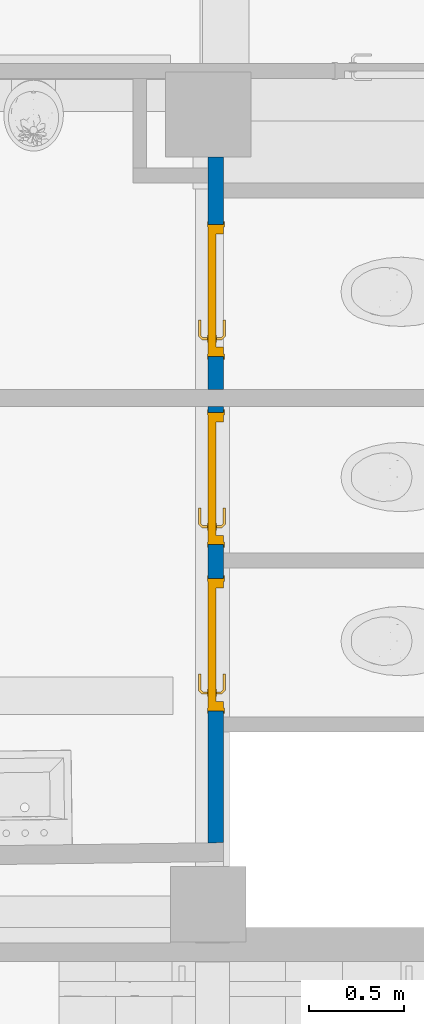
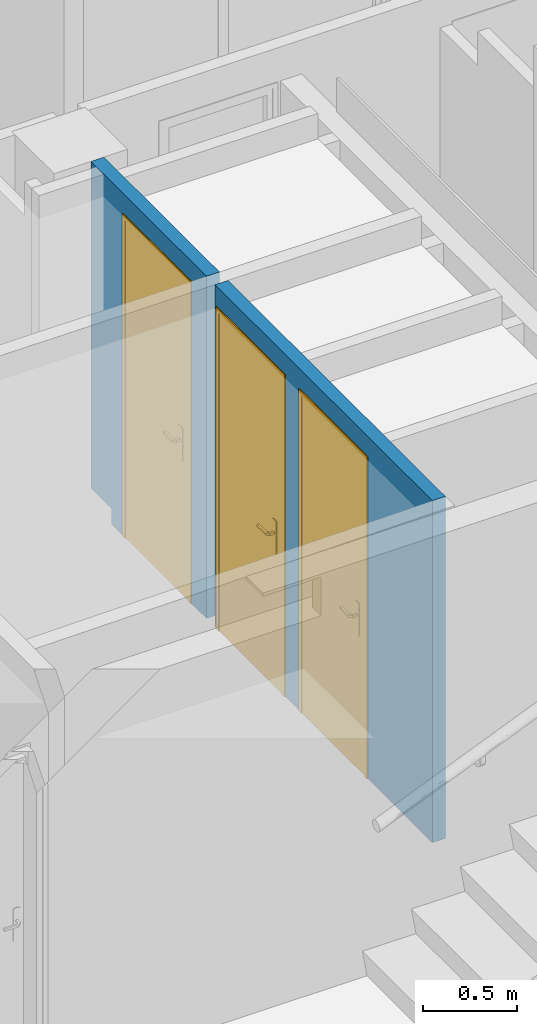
# One storey, part 13 of 32: 3 doors, 1 wall, 3 openings.
"""IFC4 building model written with IfcOpenShell, lengths in metres."""

from ifc_helpers import new_model, entity, si_unit, converted_unit, derived_unit, direction, frame, origin, place, context, subcontext, project, spatial, indexed_curve, outline, extrude, polygons, source, transform, mapped, material, material_list, layer, layer_set, constituent, constituent_set, type_object, type_shapes, element, fill, save


model = new_model("IFC4")

# Units and contexts
model_context = context("Model", 3, precision=1e-05, world=origin(), true_north=direction((6.12303176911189e-17, 1.0)))
body_context = subcontext(model_context, "Body", "Model", "MODEL_VIEW")
ifc_project = project(units=[si_unit("LENGTHUNIT", "METRE"), si_unit("AREAUNIT", "SQUARE_METRE"), si_unit("VOLUMEUNIT", "CUBIC_METRE"), converted_unit("PLANEANGLEUNIT", "DEGREE", entity("IfcRatioMeasure", 0.0174532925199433), si_unit("PLANEANGLEUNIT", "RADIAN"), dimensions=[0, 0, 0, 0, 0, 0, 0]), si_unit("MASSUNIT", "GRAM", prefix="KILO"), derived_unit("MASSDENSITYUNIT", [(si_unit("MASSUNIT", "GRAM", prefix="KILO"), 1), (si_unit("LENGTHUNIT", "METRE"), -3)]), derived_unit("MOMENTOFINERTIAUNIT", [(si_unit("LENGTHUNIT", "METRE"), 4)]), si_unit("TIMEUNIT", "SECOND"), si_unit("FREQUENCYUNIT", "HERTZ"), si_unit("THERMODYNAMICTEMPERATUREUNIT", "DEGREE_CELSIUS"), derived_unit("THERMALTRANSMITTANCEUNIT", [(si_unit("MASSUNIT", "GRAM", prefix="KILO"), 1), (si_unit("THERMODYNAMICTEMPERATUREUNIT", "KELVIN"), -1), (si_unit("TIMEUNIT", "SECOND"), -3)]), derived_unit("VOLUMETRICFLOWRATEUNIT", [(si_unit("LENGTHUNIT", "METRE"), 3), (si_unit("TIMEUNIT", "SECOND"), -1)]), si_unit("ELECTRICCURRENTUNIT", "AMPERE"), si_unit("ELECTRICVOLTAGEUNIT", "VOLT"), si_unit("POWERUNIT", "WATT"), si_unit("FORCEUNIT", "NEWTON", prefix="KILO"), si_unit("ILLUMINANCEUNIT", "LUX"), si_unit("LUMINOUSFLUXUNIT", "LUMEN"), si_unit("LUMINOUSINTENSITYUNIT", "CANDELA"), derived_unit("USERDEFINED", [(si_unit("MASSUNIT", "GRAM", prefix="KILO"), -1), (si_unit("LENGTHUNIT", "METRE"), -2), (si_unit("TIMEUNIT", "SECOND"), 3), (si_unit("LUMINOUSFLUXUNIT", "LUMEN"), 1)]), derived_unit("LINEARVELOCITYUNIT", [(si_unit("LENGTHUNIT", "METRE"), 1), (si_unit("TIMEUNIT", "SECOND"), -1)]), si_unit("PRESSUREUNIT", "PASCAL"), derived_unit("USERDEFINED", [(si_unit("LENGTHUNIT", "METRE"), -2), (si_unit("MASSUNIT", "GRAM", prefix="KILO"), 1), (si_unit("TIMEUNIT", "SECOND"), -2)]), derived_unit("LINEARFORCEUNIT", [(si_unit("MASSUNIT", "GRAM", prefix="KILO"), 1), (si_unit("LENGTHUNIT", "METRE"), 1), (si_unit("TIMEUNIT", "SECOND"), -2), (si_unit("LENGTHUNIT", "METRE"), -1)]), derived_unit("PLANARFORCEUNIT", [(si_unit("MASSUNIT", "GRAM", prefix="KILO"), 1), (si_unit("LENGTHUNIT", "METRE"), 1), (si_unit("TIMEUNIT", "SECOND"), -2), (si_unit("LENGTHUNIT", "METRE"), -2)])], contexts=[model_context])

# Site, building, storey
site_placement = place(None, origin())
site = spatial("IfcSite", under=ifc_project, at=site_placement, Name="Default", CompositionType="ELEMENT")
building_placement = place(site_placement, origin())
building = spatial("IfcBuilding", under=site, at=building_placement, Name="HOTEL CONSULAIRE BOULOGNE SUR MER", CompositionType="ELEMENT")
storey_placement = place(building_placement, frame((0.0, 0.0, -2.70343668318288)))
storey = spatial("IfcBuildingStorey", under=building, at=storey_placement, Name="SS1", CompositionType="ELEMENT", Elevation=-2.70343668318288)

# Wall, openings, doors
ifc_material_1 = material(Name="Mur par défaut", Category="Divers")
ifc_layer = layer(ifc_material_1, 0.08, Name="Mur par défaut", Category="Divers")
ifc_layer_set = layer_set([ifc_layer], Name="Mur de base:Générique - Int. 80")
wall_type = type_object("IfcWallType", Name="Mur de base:Générique - Int. 80", PredefinedType="NOTDEFINED", material=ifc_layer_set)
wall_placement = place(storey_placement, frame((-1.18882322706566, -19.4682589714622, 0.215), z_axis=(0.0, 0.0, 1.0), x_axis=(0.0, 1.0, 0.0)))
wall = element("IfcWall", 1, at=wall_placement, inside=storey, type_object=wall_type, material=ifc_layer_set, Name="Mur de base:Générique - Int. 80", ObjectType="Mur de base:Générique - Int. 80", PredefinedType="NOTDEFINED", context=body_context, shape_type="Tessellation", body=[
    polygons([(0.0, 0.04, 2.21843668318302), (2.30934461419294, 0.04, 2.21843668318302), (2.30934461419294, 0.04, 0.0), (2.27702556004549, 0.0399999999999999, 0.0), (2.27702556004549, 0.0399999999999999, 2.07500000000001), (1.57702556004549, 0.0399999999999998, 2.07500000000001), (1.57702556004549, 0.0399999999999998, 0.0), (1.39802556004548, 0.0400000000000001, 0.0), (1.39802556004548, 0.0400000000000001, 2.07500000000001), (0.698025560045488, 0.04, 2.07500000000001), (0.698025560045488, 0.04, 0.0), (0.0, 0.04, 0.0), (0.00104157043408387, -0.04, 2.21843668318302), (0.585349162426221, -0.04, 2.21843668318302), (0.66534916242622, -0.04, 2.21843668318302), (1.45412302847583, -0.04, 2.21843668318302), (1.53412302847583, -0.04, 2.21843668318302), (2.30934461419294, -0.04, 2.21843668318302), (0.585349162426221, -0.0399999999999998, 0.0), (0.00104157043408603, -0.0400000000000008, 0.0), (0.698025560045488, -0.0399999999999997, 0.0), (0.66534916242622, -0.0399999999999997, 0.0), (1.57702556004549, -0.0399999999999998, 0.0), (1.53412302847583, -0.0399999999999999, 0.0), (1.45412302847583, -0.04, 0.0), (1.39802556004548, -0.0400000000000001, 0.0), (2.30934461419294, -0.0400000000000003, 0.0), (2.27702556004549, -0.0399999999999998, 0.0), (0.698025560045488, -0.0399999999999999, 2.07500000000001), (1.39802556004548, -0.04, 2.07500000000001), (1.57702556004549, -0.04, 2.07500000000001), (2.27702556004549, -0.04, 2.07500000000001)], [[[5, 6, 7, 8, 9, 10, 11, 12, 1, 2, 3, 4]], [[1, 13, 14, 15, 16, 17, 18, 2]], [[22, 19, 20, 12, 11, 21]], [[24, 25, 26, 8, 7, 23]], [[28, 4, 3, 27]], [[10, 9, 30, 29]], [[5, 32, 31, 6]], [[20, 19, 22, 21, 29, 30, 26, 25, 24, 23, 31, 32, 28, 27, 18, 17, 16, 15, 14, 13]], [[12, 20, 13, 1]], [[27, 3, 2, 18]], [[10, 29, 21, 11]], [[6, 31, 23, 7]], [[8, 26, 30, 9]], [[4, 28, 32, 5]]], closed=True),
    polygons([(3.62734916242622, -0.04, 2.21843668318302), (3.4900255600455, -0.04, 2.21843668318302), (3.4100255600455, -0.04, 2.21843668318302), (2.39934461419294, -0.04, 2.21843668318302), (2.39934461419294, -0.04, 0.0), (2.57202556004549, -0.04, 0.0), (2.57202556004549, -0.04, 2.07500000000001), (3.27202556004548, -0.04, 2.07500000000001), (3.27202556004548, -0.04, 0.0), (3.4100255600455, -0.04, 0.0), (3.4100255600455, -0.04, 0.0989904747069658), (3.4900255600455, -0.04, 0.0989904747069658), (3.62734916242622, -0.04, 0.0989904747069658), (2.39934461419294, 0.0400000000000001, 0.0), (2.57202556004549, 0.0399999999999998, 0.0), (2.39934461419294, 0.0399999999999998, 2.21843668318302), (3.4900255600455, 0.04, 2.21843668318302), (3.5700255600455, 0.0399999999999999, 2.21843668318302), (3.62734916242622, 0.04, 2.21843668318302), (3.62734916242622, 0.04, 0.0989904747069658), (3.4100255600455, 0.0399999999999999, 0.0989904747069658), (3.4100255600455, 0.0399999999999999, 0.0), (3.27202556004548, 0.0399999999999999, 0.0), (3.27202556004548, 0.0399999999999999, 2.07500000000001), (2.57202556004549, 0.0399999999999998, 2.07500000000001)], [[[5, 6, 7, 8, 9, 10, 11, 12, 13, 1, 2, 3, 4]], [[14, 15, 6, 5]], [[25, 24, 8, 7]], [[23, 22, 10, 9]], [[12, 11, 21, 20, 13]], [[21, 22, 23, 24, 25, 15, 14, 16, 17, 18, 19, 20]], [[1, 13, 20, 19]], [[15, 25, 7, 6]], [[21, 11, 10, 22]], [[3, 2, 1, 19, 18, 17, 16, 4]], [[14, 5, 4, 16]], [[24, 23, 9, 8]]], closed=True),
])
opening_1_placement = place(wall_placement, frame((0.698025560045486, -0.0399999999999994, 0.0)))
opening_1 = element("IfcOpeningElement", 2, at=opening_1_placement, cuts=wall, Name="Int. Simple:PP (0.63m x 2.04m):1", ObjectType="Opening", PredefinedType="OPENING", context=body_context, shape_type="SweptSolid", body=[
    extrude(outline(indexed_curve([(0.0, 0.699999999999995), (0.0, 0.0), (2.07500000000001, 0.0), (2.07500000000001, 0.699999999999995), (0.0, 0.699999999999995)], self_intersect=False)), frame((0.0, 0.0, 0.0), z_axis=(0.0, 1.0, 0.0), x_axis=(0.0, 0.0, 1.0)), (0.0, 0.0, 1.0), 0.08),
])
opening_2_placement = place(wall_placement, frame((1.57702556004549, -0.0399999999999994, 0.0)))
opening_2 = element("IfcOpeningElement", 3, at=opening_2_placement, cuts=wall, Name="Int. Simple:PP (0.63m x 2.04m):1", ObjectType="Opening", PredefinedType="OPENING", context=body_context, shape_type="SweptSolid", body=[
    extrude(outline(indexed_curve([(0.0, 0.699999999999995), (0.0, 0.0), (2.07500000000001, 0.0), (2.07500000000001, 0.699999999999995), (0.0, 0.699999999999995)], self_intersect=False)), frame((0.0, 0.0, 0.0), z_axis=(0.0, 1.0, 0.0), x_axis=(0.0, 0.0, 1.0)), (0.0, 0.0, 1.0), 0.08),
])
opening_3_placement = place(wall_placement, frame((2.57202556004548, -0.0399999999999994, 0.0)))
opening_3 = element("IfcOpeningElement", 4, at=opening_3_placement, cuts=wall, Name="Int. Simple:PP (0.63m x 2.04m):1", ObjectType="Opening", PredefinedType="OPENING", context=body_context, shape_type="SweptSolid", body=[
    extrude(outline(indexed_curve([(0.0, 0.699999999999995), (0.0, 0.0), (2.07500000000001, 0.0), (2.07500000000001, 0.699999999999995), (0.0, 0.699999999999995)], self_intersect=False)), frame((0.0, 0.0, 0.0), z_axis=(0.0, 1.0, 0.0), x_axis=(0.0, 0.0, 1.0)), (0.0, 0.0, 1.0), 0.08),
])
ifc_material_2 = material(Name="Finition Peinture - Blanc satiné", Category="Peinture")
ifc_constituent_1 = constituent(ifc_material_2, Name="Finition Peinture - Blanc satiné", Category="Matériaux")
ifc_material_3 = material(Name="Bois - Panneau de porte", Category="Bois")
ifc_constituent_2 = constituent(ifc_material_3, Name="Bois - Panneau de porte", Category="Matériaux")
ifc_material_4 = material(Name="Bois - Cadre de porte", Category="Bois")
ifc_constituent_3 = constituent(ifc_material_4, Name="Bois - Cadre de porte", Category="Matériaux")
ifc_constituent_set_1 = constituent_set(constituents=[ifc_constituent_1, ifc_constituent_2, ifc_constituent_3], Name="MaterialConstituentSet")
ifc_material_list = material_list([ifc_material_4, ifc_material_4, ifc_material_3, ifc_material_2])
door_type = type_object("IfcDoorType", Name="Int. Simple:PP (0.63m x 2.04m)", OperationType="NOTDEFINED", PredefinedType="DOOR", material=ifc_material_list)
shared_shape = source(origin(), body_context, "Body", "Tessellation", [
    polygons([(0.695000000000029, -0.00500000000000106, 0.870000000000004), (0.695000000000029, -0.00500000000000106, 1.08), (0.68535276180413, -0.00500000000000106, 1.08399601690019), (0.675000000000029, -0.00500000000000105, 1.08535898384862), (0.664647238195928, -0.00500000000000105, 1.08399601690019), (0.65500000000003, -0.00500000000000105, 1.08), (0.655000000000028, -0.00500000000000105, 0.870000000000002), (0.664647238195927, -0.00500000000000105, 0.866003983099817), (0.675000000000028, -0.00500000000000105, 0.86464101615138), (0.685352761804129, -0.00500000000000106, 0.866003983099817), (0.695000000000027, -1.06594733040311e-15, 0.870000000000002), (0.685352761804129, -1.06594733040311e-15, 0.866003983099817), (0.675000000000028, -1.05748743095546e-15, 0.86464101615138), (0.664647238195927, -1.05748743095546e-15, 0.866003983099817), (0.655000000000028, -1.04902753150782e-15, 0.870000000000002), (0.655000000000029, -1.04902753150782e-15, 1.08), (0.664647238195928, -1.05748743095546e-15, 1.08399601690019), (0.675000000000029, -1.05748743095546e-15, 1.08535898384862), (0.68535276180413, -1.06594733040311e-15, 1.08399601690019), (0.695000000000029, -1.06594733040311e-15, 1.08)], [[[1, 2, 3, 4, 5, 6, 7, 8, 9, 10]], [[20, 11, 12, 13, 14, 15, 16, 17, 18, 19]], [[10, 12, 11, 1]], [[9, 13, 12, 10]], [[8, 14, 13, 9]], [[8, 7, 15, 14]], [[15, 7, 6, 16]], [[5, 17, 16, 6]], [[4, 18, 17, 5]], [[3, 19, 18, 4]], [[3, 2, 20, 19]], [[11, 20, 2, 1]]], closed=True),
    polygons([(0.65500000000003, 0.0399999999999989, 1.08), (0.655000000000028, 0.0399999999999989, 0.870000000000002), (0.664647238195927, 0.0399999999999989, 0.866003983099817), (0.675000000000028, 0.0399999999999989, 0.86464101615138), (0.685352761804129, 0.0399999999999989, 0.866003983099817), (0.695000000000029, 0.0399999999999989, 0.870000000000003), (0.695000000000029, 0.0399999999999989, 1.08), (0.68535276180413, 0.0399999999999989, 1.08399601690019), (0.675000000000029, 0.0399999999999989, 1.08535898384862), (0.664647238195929, 0.0399999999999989, 1.08399601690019), (0.65500000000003, 0.0449999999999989, 1.08), (0.664647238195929, 0.0449999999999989, 1.08399601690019), (0.675000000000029, 0.0449999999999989, 1.08535898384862), (0.68535276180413, 0.0449999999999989, 1.08399601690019), (0.695000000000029, 0.0449999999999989, 1.08), (0.695000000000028, 0.0449999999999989, 0.870000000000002), (0.685352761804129, 0.0449999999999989, 0.866003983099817), (0.675000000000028, 0.0449999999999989, 0.86464101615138), (0.664647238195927, 0.0449999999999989, 0.866003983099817), (0.655000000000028, 0.0449999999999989, 0.870000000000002)], [[[6, 7, 8, 9, 10, 1, 2, 3, 4, 5]], [[13, 14, 15, 16, 17, 18, 19, 20, 11, 12]], [[10, 12, 11, 1]], [[9, 13, 12, 10]], [[8, 14, 13, 9]], [[8, 7, 15, 14]], [[16, 15, 7, 6]], [[5, 17, 16, 6]], [[4, 18, 17, 5]], [[3, 19, 18, 4]], [[3, 2, 20, 19]], [[20, 2, 1, 11]]], closed=True),
    polygons([(0.681000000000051, -0.00500000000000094, 1.00699999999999), (0.68100000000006, -0.00500000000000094, 0.992999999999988), (0.677025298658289, -0.00500000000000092, 0.99221955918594), (0.67297470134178, -0.0050000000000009, 0.992219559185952), (0.669000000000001, -0.00500000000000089, 0.993000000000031), (0.669000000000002, -0.00500000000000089, 1.007), (0.672974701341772, -0.0050000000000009, 1.00778044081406), (0.677025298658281, -0.00500000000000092, 1.00778044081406), (0.669000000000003, -0.0276803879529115, 1.007), (0.672974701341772, -0.0293267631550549, 1.00778044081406), (0.677025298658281, -0.0310045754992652, 1.00778044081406), (0.681000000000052, -0.0326509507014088, 1.007), (0.669000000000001, -0.0276803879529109, 0.993000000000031), (0.68100000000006, -0.0326509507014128, 0.992999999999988), (0.677025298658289, -0.0310045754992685, 0.99221955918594), (0.67297470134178, -0.0293267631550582, 0.992219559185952), (0.657652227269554, -0.0390281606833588, 1.007), (0.659298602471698, -0.0430028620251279, 1.00778044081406), (0.660976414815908, -0.0470534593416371, 1.00778044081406), (0.662622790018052, -0.0510281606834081, 1.007), (0.657652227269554, -0.0390281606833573, 0.993000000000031), (0.662622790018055, -0.0510281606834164, 0.992999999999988), (0.660976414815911, -0.047053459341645, 0.99221955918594), (0.659298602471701, -0.0430028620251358, 0.992219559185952), (0.574981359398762, -0.0510281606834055, 1.007), (0.574981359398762, -0.0470534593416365, 1.00778044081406), (0.574981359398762, -0.0430028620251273, 1.00778044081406), (0.574981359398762, -0.0390281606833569, 1.00699999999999), (0.574981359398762, -0.0390281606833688, 0.993000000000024), (0.574981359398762, -0.0430028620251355, 0.992219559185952), (0.574981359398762, -0.0470534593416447, 0.99221955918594), (0.574981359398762, -0.0510281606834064, 0.992999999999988), (0.622692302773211, -0.051028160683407, 1.007), (0.617139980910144, -0.045028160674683, 1.0078786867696), (0.616316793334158, -0.039028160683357, 1.007), (0.622692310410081, -0.0510281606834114, 0.992999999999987), (0.617139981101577, -0.0450281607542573, 0.992121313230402), (0.61631679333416, -0.039028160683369, 0.993000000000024)], [[[7, 8, 1, 2, 3, 4, 5, 6]], [[17, 21, 38, 29, 28, 35]], [[1, 8, 11, 12]], [[8, 7, 10, 18, 19, 11]], [[7, 6, 9, 10]], [[13, 9, 6, 5]], [[25, 26, 27, 28, 29, 30, 31, 32]], [[4, 16, 13, 5]], [[4, 3, 15, 23, 24, 16]], [[2, 14, 15, 3]], [[12, 14, 2, 1]], [[12, 11, 19, 20]], [[10, 9, 17, 18]], [[21, 17, 9, 13]], [[13, 16, 24, 21]], [[15, 14, 22, 23]], [[20, 22, 14, 12]], [[34, 26, 33]], [[33, 26, 25]], [[33, 20, 19]], [[18, 35, 34]], [[35, 18, 17]], [[28, 27, 35]], [[34, 27, 26]], [[34, 35, 27]], [[34, 33, 19]], [[18, 34, 19]], [[37, 30, 38]], [[31, 37, 36]], [[24, 38, 21]], [[30, 29, 38]], [[31, 36, 32]], [[36, 23, 22]], [[37, 23, 36]], [[37, 24, 23]], [[37, 38, 24]], [[30, 37, 31]], [[22, 20, 33, 25, 32, 36]]], closed=True),
    polygons([(0.66900000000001, 0.0449999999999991, 0.993000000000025), (0.672974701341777, 0.0449999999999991, 0.992219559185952), (0.677025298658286, 0.0449999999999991, 0.99221955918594), (0.681000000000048, 0.044999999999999, 0.992999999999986), (0.681000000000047, 0.044999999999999, 1.007), (0.677025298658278, 0.0449999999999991, 1.00778044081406), (0.672974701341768, 0.0449999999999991, 1.00778044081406), (0.668999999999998, 0.0449999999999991, 1.007), (0.668999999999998, 0.067485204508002, 1.007), (0.668999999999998, 0.0674852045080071, 0.993000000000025), (0.681000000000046, 0.0724557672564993, 1.007), (0.677025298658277, 0.070809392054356, 1.00778044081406), (0.672974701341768, 0.0691315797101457, 1.00778044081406), (0.681000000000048, 0.0724557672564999, 0.992999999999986), (0.672974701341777, 0.0691315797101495, 0.992219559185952), (0.677025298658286, 0.0708093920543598, 0.99221955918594), (0.65751471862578, 0.0789704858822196, 1.007), (0.657514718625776, 0.0789704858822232, 0.993000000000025), (0.662485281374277, 0.0909704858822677, 1.007), (0.660838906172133, 0.0869957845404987, 1.00778044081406), (0.659161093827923, 0.0829451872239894, 1.00778044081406), (0.662485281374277, 0.0909704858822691, 0.992999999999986), (0.659161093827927, 0.0829451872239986, 0.992219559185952), (0.660838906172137, 0.0869957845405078, 0.99221955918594), (0.574954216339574, 0.0789704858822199, 0.993000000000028), (0.574954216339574, 0.0789704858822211, 1.007), (0.574954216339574, 0.0829451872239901, 1.00778044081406), (0.574954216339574, 0.0869957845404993, 1.00778044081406), (0.574954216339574, 0.0909704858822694, 1.007), (0.574954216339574, 0.0909704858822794, 0.992999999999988), (0.574954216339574, 0.086995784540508, 0.99221955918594), (0.574954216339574, 0.0829451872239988, 0.992219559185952), (0.62255479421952, 0.0909704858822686, 1.007), (0.617057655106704, 0.0849704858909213, 1.0078786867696), (0.616234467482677, 0.0789704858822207, 1.007), (0.622554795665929, 0.0909704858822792, 0.992999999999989), (0.617057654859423, 0.0849704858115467, 0.992121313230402), (0.616234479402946, 0.0789704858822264, 0.993000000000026)], [[[2, 3, 4, 5, 6, 7, 8, 1]], [[18, 17, 35, 26, 25, 38]], [[9, 10, 1, 8]], [[27, 28, 29, 30, 31, 32, 25, 26]], [[7, 13, 9, 8]], [[7, 6, 12, 20, 21, 13]], [[5, 11, 12, 6]], [[11, 5, 4, 14]], [[4, 3, 16, 14]], [[3, 2, 15, 23, 24, 16]], [[2, 1, 10, 15]], [[17, 18, 10, 9]], [[9, 13, 21, 17]], [[11, 19, 20, 12]], [[22, 19, 11, 14]], [[14, 16, 24, 22]], [[15, 10, 18, 23]], [[34, 27, 35]], [[28, 34, 33]], [[21, 35, 17]], [[27, 26, 35]], [[28, 33, 29]], [[33, 20, 19]], [[34, 20, 33]], [[34, 21, 20]], [[34, 35, 21]], [[27, 34, 28]], [[19, 22, 36, 30, 29, 33]], [[37, 31, 36]], [[36, 31, 30]], [[36, 22, 24]], [[23, 38, 37]], [[38, 23, 18]], [[25, 32, 38]], [[37, 32, 31]], [[37, 38, 32]], [[37, 36, 24]], [[23, 37, 24]]], closed=True),
    polygons([(0.735000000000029, 0.04, 2.04), (0.735000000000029, 0.04, 0.0), (0.105000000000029, 0.04, 0.0), (0.105000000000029, 0.04, 2.04), (0.735000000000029, 3.38395977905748e-17, 2.04), (0.105000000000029, 3.38395977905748e-17, 2.04), (0.105000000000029, 3.38395977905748e-17, 0.0), (0.735000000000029, 3.38395977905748e-17, 0.0)], [[[4, 1, 2, 3]], [[5, 6, 7, 8]], [[5, 1, 4, 6]], [[6, 4, 3, 7]], [[7, 3, 2, 8]], [[8, 2, 1, 5]]], closed=True),
    polygons([(0.770000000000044, -8.45989944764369e-18, 0.0), (0.735000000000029, -8.45989944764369e-18, 0.0), (0.735000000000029, 0.0400000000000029, 0.0), (0.720000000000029, 0.0400000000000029, 0.0), (0.720000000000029, 0.080000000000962, 0.0), (0.770000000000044, 0.080000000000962, 0.0), (0.770000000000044, 0.080000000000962, 2.07500000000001), (0.770000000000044, -8.45989944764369e-18, 2.07500000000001), (0.720000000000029, 0.080000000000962, 2.025), (0.120000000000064, 0.080000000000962, 2.025), (0.120000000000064, 0.080000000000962, -1.79828591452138e-24), (0.0700000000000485, 0.080000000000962, 1.16645647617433e-24), (0.0700000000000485, 0.080000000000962, 2.07500000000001), (0.720000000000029, 0.0400000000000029, 2.025), (0.735000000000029, 0.0400000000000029, 2.04), (0.105000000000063, 0.0400000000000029, 2.04), (0.105000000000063, 0.0400000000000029, 1.46419166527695e-24), (0.120000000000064, 0.0400000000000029, 1.49408317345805e-25), (0.120000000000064, 0.0400000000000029, 2.025), (0.735000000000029, -8.45989944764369e-18, 2.04), (0.0700000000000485, -8.45989944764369e-18, 2.07500000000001), (0.0700000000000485, -8.45989944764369e-18, 4.03399441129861e-24), (0.105000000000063, -8.45989944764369e-18, 0.0), (0.105000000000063, -8.45989944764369e-18, 2.04)], [[[5, 6, 1, 2, 3, 4]], [[17, 23, 22, 12, 11, 18]], [[19, 10, 9, 14]], [[16, 15, 20, 24]], [[7, 8, 1, 6]], [[18, 11, 10, 19]], [[17, 16, 24, 23]], [[9, 10, 11, 12, 13, 7, 6, 5]], [[9, 5, 4, 14]], [[15, 3, 2, 20]], [[12, 22, 21, 13]], [[19, 14, 4, 3, 15, 16, 17, 18]], [[24, 20, 2, 1, 8, 21, 22, 23]], [[13, 21, 8, 7]]], closed=True),
    polygons([(0.755000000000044, 0.080000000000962, 0.0), (0.755000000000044, 0.085000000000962, 0.0), (0.785000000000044, 0.085000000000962, 0.0), (0.785000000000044, 0.080000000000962, 0.0), (0.785000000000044, 0.080000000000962, 2.09000000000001), (0.0550000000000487, 0.080000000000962, 2.09000000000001), (0.0550000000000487, 0.080000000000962, 1.09662010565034e-24), (0.0850000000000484, 0.080000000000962, -5.40476896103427e-24), (0.0850000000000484, 0.080000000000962, 2.06000000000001), (0.755000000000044, 0.080000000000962, 2.06000000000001), (0.785000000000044, 0.085000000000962, 2.09000000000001), (0.755000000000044, 0.085000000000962, 2.06000000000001), (0.0850000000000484, 0.085000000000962, 2.06000000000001), (0.0850000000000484, 0.085000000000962, 3.01102000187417e-24), (0.0550000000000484, 0.085000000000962, 9.94022571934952e-24), (0.0550000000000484, 0.085000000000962, 2.09000000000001)], [[[2, 3, 4, 1]], [[7, 15, 14, 8]], [[13, 12, 10, 9]], [[9, 10, 1, 4, 5, 6, 7, 8]], [[11, 5, 4, 3]], [[8, 14, 13, 9]], [[12, 13, 14, 15, 16, 11, 3, 2]], [[12, 2, 1, 10]], [[15, 7, 6, 16]], [[16, 6, 5, 11]]], closed=True),
    polygons([(0.755000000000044, -0.00499999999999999, 0.0), (0.755000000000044, -8.45989944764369e-18, 0.0), (0.785000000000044, -8.45989944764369e-18, 0.0), (0.785000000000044, -0.00499999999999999, 0.0), (0.0850000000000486, -0.00499999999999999, -5.41433564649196e-16), (0.0550000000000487, -0.00499999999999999, -5.41433564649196e-16), (0.0550000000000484, -8.45989944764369e-18, -5.41433564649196e-16), (0.0850000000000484, -8.45989944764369e-18, -5.41433564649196e-16), (0.785000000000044, -0.00499999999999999, 2.09000000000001), (0.0550000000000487, -0.00499999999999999, 2.09000000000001), (0.0850000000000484, -0.00499999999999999, 2.06000000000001), (0.755000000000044, -0.00499999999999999, 2.06000000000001), (0.785000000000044, -8.45989944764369e-18, 2.09000000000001), (0.755000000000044, -8.45989944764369e-18, 2.06000000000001), (0.0850000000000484, -8.45989944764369e-18, 2.06000000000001), (0.0550000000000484, -8.45989944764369e-18, 2.09000000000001)], [[[2, 3, 4, 1]], [[6, 7, 8, 5]], [[15, 14, 12, 11]], [[11, 12, 1, 4, 9, 10, 6, 5]], [[9, 4, 3, 13]], [[5, 8, 15, 11]], [[14, 15, 8, 7, 16, 13, 3, 2]], [[12, 14, 2, 1]], [[7, 6, 10, 16]], [[16, 10, 9, 13]]], closed=True),
])
type_shapes(door_type, [shared_shape])
door_1_placement = place(opening_1_placement, frame((0.770000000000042, 0.079999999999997, 0.0), z_axis=(0.0, 0.0, 1.0), x_axis=(-1.0, 0.0, 0.0)))
door_1 = element("IfcDoor", 5, at=door_1_placement, inside=storey, type_object=door_type, material=ifc_constituent_set_1, Name="Int. Simple:PP (0.63m x 2.04m)", ObjectType="Int. Simple:PP (0.63m x 2.04m)", OperationType="NOTDEFINED", OverallHeight=2.07500000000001, OverallWidth=0.699999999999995, PredefinedType="DOOR", context=body_context, shape_type="MappedRepresentation", body=[
    mapped(shared_shape, transform((0.0, 0.0, 0.0), scale=1.0)),
])
fill(opening_1, door_1)
ifc_constituent_4 = constituent(ifc_material_2, Name="Finition Peinture - Blanc satiné", Category="Matériaux")
ifc_constituent_5 = constituent(ifc_material_3, Name="Bois - Panneau de porte", Category="Matériaux")
ifc_constituent_6 = constituent(ifc_material_4, Name="Bois - Cadre de porte", Category="Matériaux")
ifc_constituent_set_2 = constituent_set(constituents=[ifc_constituent_4, ifc_constituent_5, ifc_constituent_6], Name="MaterialConstituentSet")
door_2_placement = place(opening_2_placement, frame((0.770000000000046, 0.0799999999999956, 0.0), z_axis=(0.0, 0.0, 1.0), x_axis=(-1.0, 0.0, 0.0)))
door_2 = element("IfcDoor", 6, at=door_2_placement, inside=storey, type_object=door_type, material=ifc_constituent_set_2, Name="Int. Simple:PP (0.63m x 2.04m)", ObjectType="Int. Simple:PP (0.63m x 2.04m)", OperationType="NOTDEFINED", OverallHeight=2.07500000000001, OverallWidth=0.699999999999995, PredefinedType="DOOR", context=body_context, shape_type="MappedRepresentation", body=[
    mapped(shared_shape, transform((0.0, 0.0, 0.0), scale=1.0)),
])
fill(opening_2, door_2)
ifc_constituent_7 = constituent(ifc_material_2, Name="Finition Peinture - Blanc satiné", Category="Matériaux")
ifc_constituent_8 = constituent(ifc_material_3, Name="Bois - Panneau de porte", Category="Matériaux")
ifc_constituent_9 = constituent(ifc_material_4, Name="Bois - Cadre de porte", Category="Matériaux")
ifc_constituent_set_3 = constituent_set(constituents=[ifc_constituent_7, ifc_constituent_8, ifc_constituent_9], Name="MaterialConstituentSet")
door_3_placement = place(opening_3_placement, frame((0.770000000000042, 0.0799999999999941, 0.0), z_axis=(0.0, 0.0, 1.0), x_axis=(-1.0, 0.0, 0.0)))
door_3 = element("IfcDoor", 7, at=door_3_placement, inside=storey, type_object=door_type, material=ifc_constituent_set_3, Name="Int. Simple:PP (0.63m x 2.04m)", ObjectType="Int. Simple:PP (0.63m x 2.04m)", OperationType="NOTDEFINED", OverallHeight=2.07500000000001, OverallWidth=0.699999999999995, PredefinedType="DOOR", context=body_context, shape_type="MappedRepresentation", body=[
    mapped(shared_shape, transform((0.0, 0.0, 0.0), scale=1.0)),
])
fill(opening_3, door_3)

save(model, "model.ifc")
